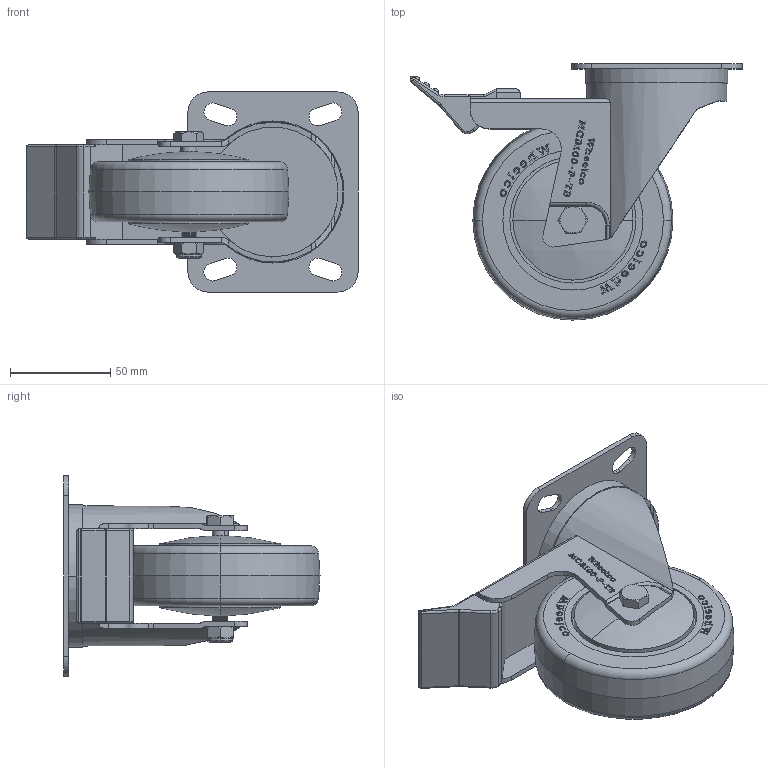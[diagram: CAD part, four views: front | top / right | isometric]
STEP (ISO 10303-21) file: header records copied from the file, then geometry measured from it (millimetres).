
FILE_DESCRIPTION (( 'STEP AP214' ), '1' );
FILE_NAME ('MDB100-P-TB.step', '2024-01-21T22:13:58', ( '' ), ( '' ), 'SwSTEP 2.0', 'SolidWorks 2022', '' );
FILE_SCHEMA (( 'AUTOMOTIVE_DESIGN' ));
Length unit declared in the file: millimetre
Products named in the file (6): 100X85 ANGLED; M8x55; M8Nyloc; WCB100; MCB100-P-TB; MDB100-P-TB
Assembly tree (5 placements, depth 2):
  MDB100-P-TB
    MCB100-P-TB
    M8x55
    M8Nyloc
    WCB100
    100X85 ANGLED
Bounding box: 165.93 x 128 x 100 mm (x, y, z)
Volume: 347941.5 mm3; surface area: 93356.1 mm2
Topology: 5 solids, 5 shells, 1152 faces, 3106 edges, 2041 vertices
Faces by surface type: plane 597, bspline 316, cylinder 183, cone 24, torus 21, sphere 11
Entity records: 58936 total; most frequent: CARTESIAN_POINT 31158, ORIENTED_EDGE 6204, DIRECTION 4177, EDGE_CURVE 3102, VERTEX_POINT 2041, VECTOR 2003, LINE 2003, EDGE_LOOP 1251
